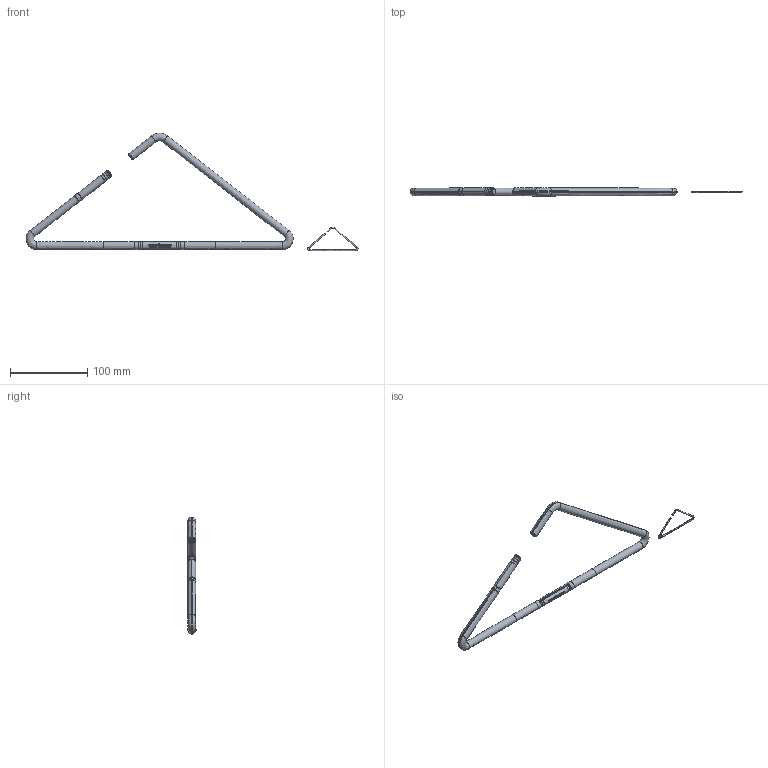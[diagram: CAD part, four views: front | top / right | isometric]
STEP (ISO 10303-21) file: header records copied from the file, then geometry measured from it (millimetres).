
FILE_DESCRIPTION(/* description */ (''),/* implementation_level */ '2;1');
FILE_NAME(/* name */ '1233_4',/* time_stamp */ '2015-09-02T04:39:56+09:00',/* author */ (''),/* organization */ (''),/* preprocessor_version */ 'ST-DEVELOPER v10',/* originating_system */ '',/* authorisation */ '');
FILE_SCHEMA (('CONFIG_CONTROL_DESIGN'));
Length unit declared in the file: millimetre
Products named in the file (1): 1
Bounding box: 428.52 x 10.4 x 152.18 mm (x, y, z)
Volume: 4653.3 mm3; surface area: 30822 mm2
Topology: 11 solids, 22 shells, 489 faces, 1709 edges, 1287 vertices
Faces by surface type: bspline 489
Entity records: 25643 total; most frequent: CARTESIAN_POINT 17770, ORIENTED_EDGE 2334, EDGE_CURVE 1238, B_SPLINE_CURVE_WITH_KNOTS 1131, VERTEX_POINT 805, EDGE_LOOP 519, ADVANCED_FACE 489, FACE_OUTER_BOUND 489
